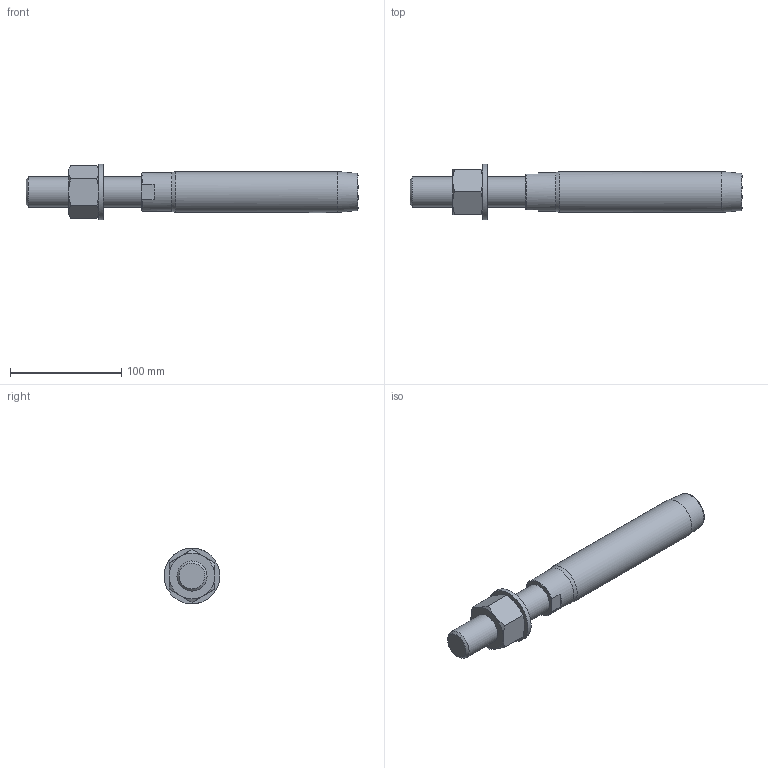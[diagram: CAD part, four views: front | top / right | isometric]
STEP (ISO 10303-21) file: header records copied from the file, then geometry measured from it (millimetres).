
FILE_DESCRIPTION(/* description */ (''),/* implementation_level */ '2;1');
FILE_NAME(/* name */ 'FLT 18_42CrMo4',/* time_stamp */ '2023-05-23T15:57:51+02:00',/* author */ (''),/* organization */ (''),/* preprocessor_version */ 'ST-DEVELOPER v16.5',/* originating_system */ 'Rhino 7.22',/* authorisation */ '');
FILE_SCHEMA (('CONFIG_CONTROL_DESIGN'));
Length unit declared in the file: millimetre
Products named in the file (1): Document
Bounding box: 298 x 49.99 x 49.97 mm (x, y, z)
Volume: 292928.4 mm3; surface area: 43969.4 mm2
Topology: 3 solids, 3 shells, 43 faces, 103 edges, 67 vertices
Faces by surface type: bspline 20, plane 17, cylinder 6
Full cylindrical faces by diameter (mm): 23.752 x1, 27 x1, 28 x1, 35 x1, 36.8 x1, 50 x1
Entity records: 1586 total; most frequent: CARTESIAN_POINT 881, ORIENTED_EDGE 206, EDGE_CURVE 103, VERTEX_POINT 67, EDGE_LOOP 48, ADVANCED_FACE 43, FACE_OUTER_BOUND 43, DIRECTION 27
